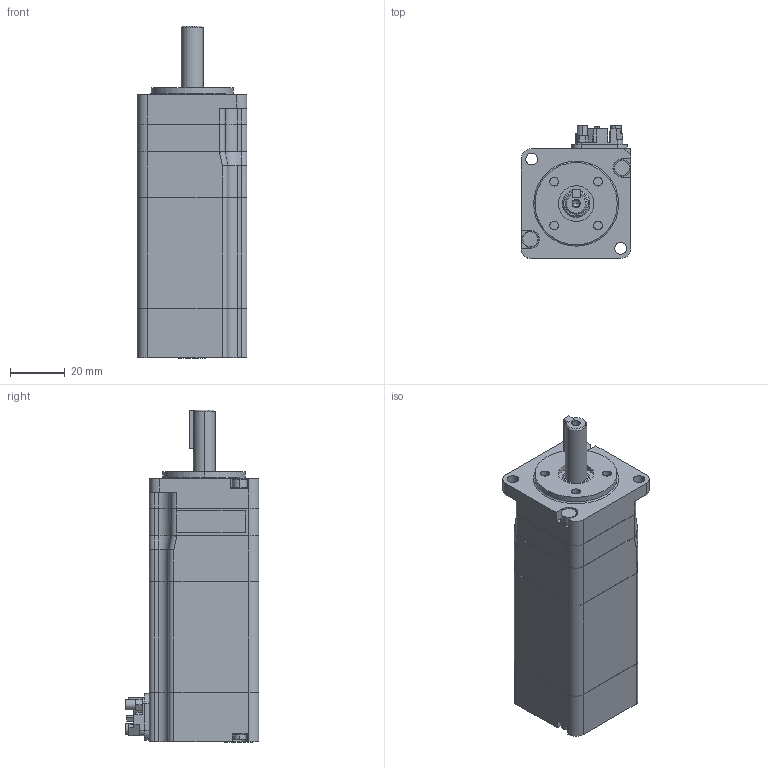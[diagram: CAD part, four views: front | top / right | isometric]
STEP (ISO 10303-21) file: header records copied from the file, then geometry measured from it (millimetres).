
FILE_DESCRIPTION( (''), '2;1');
FILE_NAME ('sgmxa_a5aua6ca_.stp','2024-03-07T11:51:17',(''),(''),'spGate 15.6.6','','');
FILE_SCHEMA (('AUTOMOTIVE_DESIGN'));
Length unit declared in the file: millimetre
Products named in the file (3): Assembly; sgmxa_a5aua6ca_-prt0; sgmxa_a5aua6ca_-prt1
Assembly tree (2 placements, depth 2):
  Assembly
    sgmxa_a5aua6ca_-prt0
    sgmxa_a5aua6ca_-prt1
Bounding box: 40.1 x 48.8 x 121.1 mm (x, y, z)
Volume: 146832.6 mm3; surface area: 21701 mm2
Topology: 2 solids, 2 shells, 377 faces, 990 edges, 654 vertices
Faces by surface type: plane 222, cylinder 140, bspline 15
Entity records: 19853 total; most frequent: CARTESIAN_POINT 2570, ORIENTED_EDGE 1976, DIRECTION 1902, COLOUR_RGB 1367, PRESENTATION_STYLE_ASSIGNMENT 1367, STYLED_ITEM 1367, EDGE_CURVE 988, DRAUGHTING_PRE_DEFINED_CURVE_FONT 988
